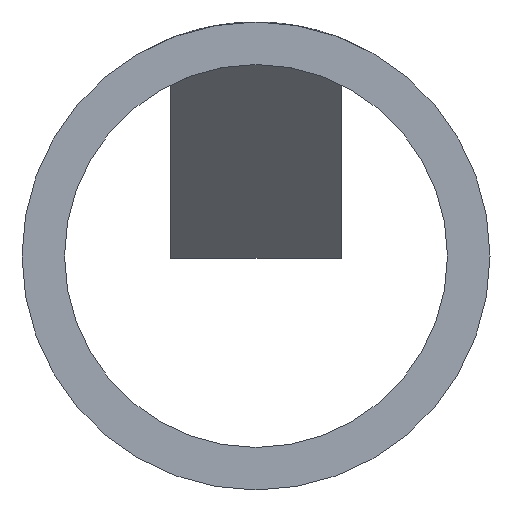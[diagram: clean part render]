
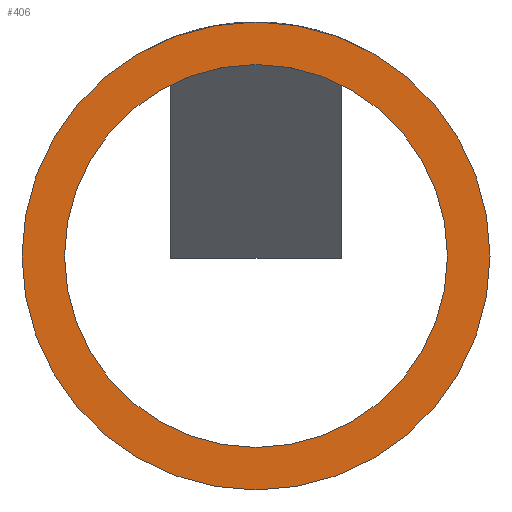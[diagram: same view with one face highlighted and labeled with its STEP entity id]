
A CAD part, front view. The second image highlights one B-rep face of the part: STEP entity #406.
In plain terms, the highlighted planar face has unit normal (0, -1, 0).
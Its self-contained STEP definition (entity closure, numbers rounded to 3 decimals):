
#29 = EDGE_LOOP ( 'NONE', ( #87, #94 ) ) ;
#32 = EDGE_LOOP ( 'NONE', ( #54, #52 ) ) ;
#46 = CIRCLE ( 'NONE', #144, 5.5 ) ;
#52 = ORIENTED_EDGE ( 'NONE', *, *, #123, .F. ) ;
#54 = ORIENTED_EDGE ( 'NONE', *, *, #164, .F. ) ;
#87 = ORIENTED_EDGE ( 'NONE', *, *, #113, .T. ) ;
#94 = ORIENTED_EDGE ( 'NONE', *, *, #149, .T. ) ;
#113 = EDGE_CURVE ( 'NONE', #304, #258, #46, .T. ) ;
#123 = EDGE_CURVE ( 'NONE', #253, #262, #473, .T. ) ;
#139 = AXIS2_PLACEMENT_3D ( 'NONE', #322, #316, #314 ) ;
#141 = AXIS2_PLACEMENT_3D ( 'NONE', #348, #347, #346 ) ;
#144 = AXIS2_PLACEMENT_3D ( 'NONE', #374, #373, #372 ) ;
#149 = EDGE_CURVE ( 'NONE', #258, #304, #449, .T. ) ;
#164 = EDGE_CURVE ( 'NONE', #262, #253, #430, .T. ) ;
#174 = AXIS2_PLACEMENT_3D ( 'NONE', #223, #209, #207 ) ;
#177 = AXIS2_PLACEMENT_3D ( 'NONE', #306, #296, #295 ) ;
#207 = DIRECTION ( 'NONE',  ( -1., 0., 0. ) ) ;
#209 = DIRECTION ( 'NONE',  ( 0., -1., 0. ) ) ;
#212 = PLANE ( 'NONE',  #174 ) ;
#223 = CARTESIAN_POINT ( 'NONE',  ( 0., 0., 0. ) ) ;
#253 = VERTEX_POINT ( 'NONE', #272 ) ;
#258 = VERTEX_POINT ( 'NONE', #271 ) ;
#262 = VERTEX_POINT ( 'NONE', #270 ) ;
#267 = CARTESIAN_POINT ( 'NONE',  ( 5.5, 0., 0. ) ) ;
#270 = CARTESIAN_POINT ( 'NONE',  ( 4.5, 0., 0. ) ) ;
#271 = CARTESIAN_POINT ( 'NONE',  ( -5.5, 0., 0. ) ) ;
#272 = CARTESIAN_POINT ( 'NONE',  ( -4.5, 0., 0. ) ) ;
#295 = DIRECTION ( 'NONE',  ( -1., 0., 0. ) ) ;
#296 = DIRECTION ( 'NONE',  ( 0., -1., 0. ) ) ;
#304 = VERTEX_POINT ( 'NONE', #267 ) ;
#306 = CARTESIAN_POINT ( 'NONE',  ( 0., 0., 0. ) ) ;
#314 = DIRECTION ( 'NONE',  ( -1., 0., 0. ) ) ;
#316 = DIRECTION ( 'NONE',  ( 0., -1., 0. ) ) ;
#322 = CARTESIAN_POINT ( 'NONE',  ( 0., 0., 0. ) ) ;
#346 = DIRECTION ( 'NONE',  ( -1., 0., 0. ) ) ;
#347 = DIRECTION ( 'NONE',  ( 0., -1., 0. ) ) ;
#348 = CARTESIAN_POINT ( 'NONE',  ( 0., 0., 0. ) ) ;
#372 = DIRECTION ( 'NONE',  ( -1., 0., 0. ) ) ;
#373 = DIRECTION ( 'NONE',  ( 0., -1., 0. ) ) ;
#374 = CARTESIAN_POINT ( 'NONE',  ( 0., 0., 0. ) ) ;
#406 = ADVANCED_FACE ( 'NONE', ( #414, #418 ), #212, .T. ) ;
#414 = FACE_OUTER_BOUND ( 'NONE', #29, .T. ) ;
#418 = FACE_BOUND ( 'NONE', #32, .T. ) ;
#430 = CIRCLE ( 'NONE', #177, 4.5 ) ;
#449 = CIRCLE ( 'NONE', #139, 5.5 ) ;
#473 = CIRCLE ( 'NONE', #141, 4.5 ) ;
